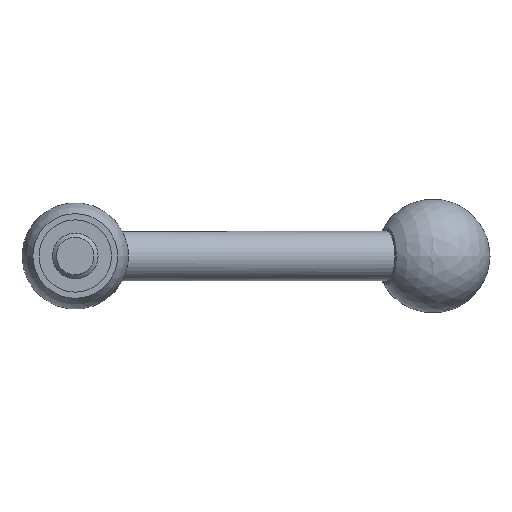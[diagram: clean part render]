
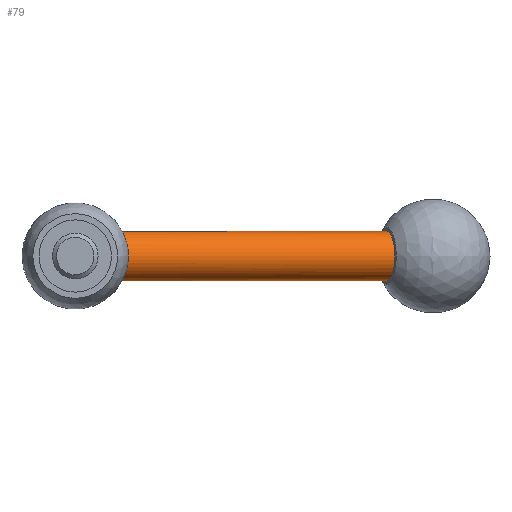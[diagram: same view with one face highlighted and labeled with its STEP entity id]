
A CAD part, front view. The second image highlights one B-rep face of the part: STEP entity #79.
In plain terms, the highlighted cylindrical face has radius 6.5 mm (diameter 13 mm), a full revolution.
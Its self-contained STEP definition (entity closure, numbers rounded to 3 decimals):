
#79 = ADVANCED_FACE( '', ( #100, #101 ), #102, .T. );
#100 = FACE_OUTER_BOUND( '', #137, .T. );
#101 = FACE_OUTER_BOUND( '', #138, .T. );
#102 = CYLINDRICAL_SURFACE( '', #139, 6.5 );
#137 = EDGE_LOOP( '', ( #184 ) );
#138 = EDGE_LOOP( '', ( #185, #186 ) );
#139 = AXIS2_PLACEMENT_3D( '', #187, #188, #189 );
#184 = ORIENTED_EDGE( '', *, *, #235, .F. );
#185 = ORIENTED_EDGE( '', *, *, #232, .F. );
#186 = ORIENTED_EDGE( '', *, *, #234, .T. );
#187 = CARTESIAN_POINT( '', ( 108.095, 60.63, 0. ) );
#188 = DIRECTION( '', ( -0.94, -0.342, 0. ) );
#189 = DIRECTION( '', ( -0.342, 0.94, 0. ) );
#232 = EDGE_CURVE( '', #248, #247, #250, .T. );
#234 = EDGE_CURVE( '', #248, #247, #253, .T. );
#235 = EDGE_CURVE( '', #254, #254, #255, .T. );
#247 = VERTEX_POINT( '', #272 );
#248 = VERTEX_POINT( '', #273 );
#250 = B_SPLINE_CURVE_WITH_KNOTS( '', 3, ( #275, #276, #277, #278, #279, #280, #281, #282, #283, #284, #285, #286, #287, #288, #289, #290, #291, #292, #293, #294, #295, #296, #297, #298, #299, #300, #301, #302, #303, #304, #305, #306, #307, #308, #309, #310, #311, #312, #313, #314, #315, #316, #317, #318, #319, #320, #321, #322, #323, #324, #325, #326, #327, #328, #329, #330, #331, #332, #333, #334, #335, #336, #337, #338, #339, #340, #341, #342, #343, #344, #345, #346 ), .UNSPECIFIED., .F., .F., ( 4, 2, 2, 2, 2, 2, 2, 2, 2, 2, 2, 2, 2, 2, 2, 2, 2, 2, 2, 2, 2, 2, 2, 2, 2, 2, 2, 2, 2, 2, 2, 2, 2, 2, 2, 4 ), ( 0., 0.001, 0.002, 0.003, 0.005, 0.006, 0.007, 0.008, 0.009, 0.01, 0.011, 0.012, 0.013, 0.014, 0.015, 0.015, 0.016, 0.017, 0.017, 0.018, 0.019, 0.02, 0.021, 0.023, 0.024, 0.025, 0.026, 0.027, 0.028, 0.029, 0.03, 0.032, 0.033, 0.034, 0.035, 0.036 ), .UNSPECIFIED. );
#253 = B_SPLINE_CURVE_WITH_KNOTS( '', 3, ( #349, #350, #351, #352, #353, #354, #355, #356, #357, #358, #359, #360, #361, #362 ), .UNSPECIFIED., .F., .F., ( 4, 2, 2, 2, 2, 2, 4 ), ( 0., 0.001, 0.002, 0.002, 0.003, 0.004, 0.005 ), .UNSPECIFIED. );
#254 = VERTEX_POINT( '', #363 );
#255 = CIRCLE( '', #364, 6.5 );
#272 = CARTESIAN_POINT( '', ( 7.623, 30.5, 2.375 ) );
#273 = CARTESIAN_POINT( '', ( 7.623, 30.5, -2.375 ) );
#275 = CARTESIAN_POINT( '', ( 7.623, 30.5, -2.375 ) );
#276 = CARTESIAN_POINT( '', ( 7.696, 30.378, -2.73 ) );
#277 = CARTESIAN_POINT( '', ( 7.784, 30.232, -3.066 ) );
#278 = CARTESIAN_POINT( '', ( 7.987, 29.891, -3.705 ) );
#279 = CARTESIAN_POINT( '', ( 8.104, 29.696, -4.009 ) );
#280 = CARTESIAN_POINT( '', ( 8.363, 29.259, -4.576 ) );
#281 = CARTESIAN_POINT( '', ( 8.504, 29.023, -4.834 ) );
#282 = CARTESIAN_POINT( '', ( 8.805, 28.514, -5.301 ) );
#283 = CARTESIAN_POINT( '', ( 8.966, 28.241, -5.51 ) );
#284 = CARTESIAN_POINT( '', ( 9.305, 27.665, -5.873 ) );
#285 = CARTESIAN_POINT( '', ( 9.479, 27.367, -6.023 ) );
#286 = CARTESIAN_POINT( '', ( 9.839, 26.751, -6.265 ) );
#287 = CARTESIAN_POINT( '', ( 10.025, 26.431, -6.357 ) );
#288 = CARTESIAN_POINT( '', ( 10.402, 25.782, -6.477 ) );
#289 = CARTESIAN_POINT( '', ( 10.59, 25.457, -6.504 ) );
#290 = CARTESIAN_POINT( '', ( 10.966, 24.805, -6.495 ) );
#291 = CARTESIAN_POINT( '', ( 11.155, 24.476, -6.459 ) );
#292 = CARTESIAN_POINT( '', ( 11.527, 23.828, -6.323 ) );
#293 = CARTESIAN_POINT( '', ( 11.707, 23.513, -6.223 ) );
#294 = CARTESIAN_POINT( '', ( 12.057, 22.899, -5.965 ) );
#295 = CARTESIAN_POINT( '', ( 12.228, 22.598, -5.804 ) );
#296 = CARTESIAN_POINT( '', ( 12.552, 22.025, -5.426 ) );
#297 = CARTESIAN_POINT( '', ( 12.704, 21.756, -5.21 ) );
#298 = CARTESIAN_POINT( '', ( 12.917, 21.378, -4.85 ) );
#299 = CARTESIAN_POINT( '', ( 12.986, 21.257, -4.723 ) );
#300 = CARTESIAN_POINT( '', ( 13.118, 21.022, -4.457 ) );
#301 = CARTESIAN_POINT( '', ( 13.182, 20.909, -4.316 ) );
#302 = CARTESIAN_POINT( '', ( 13.362, 20.588, -3.882 ) );
#303 = CARTESIAN_POINT( '', ( 13.469, 20.398, -3.575 ) );
#304 = CARTESIAN_POINT( '', ( 13.608, 20.149, -3.087 ) );
#305 = CARTESIAN_POINT( '', ( 13.651, 20.073, -2.92 ) );
#306 = CARTESIAN_POINT( '', ( 13.73, 19.931, -2.578 ) );
#307 = CARTESIAN_POINT( '', ( 13.767, 19.866, -2.401 ) );
#308 = CARTESIAN_POINT( '', ( 13.863, 19.695, -1.867 ) );
#309 = CARTESIAN_POINT( '', ( 13.911, 19.609, -1.504 ) );
#310 = CARTESIAN_POINT( '', ( 13.959, 19.522, -0.948 ) );
#311 = CARTESIAN_POINT( '', ( 13.972, 19.5, -0.761 ) );
#312 = CARTESIAN_POINT( '', ( 13.988, 19.47, -0.383 ) );
#313 = CARTESIAN_POINT( '', ( 13.992, 19.463, -0.192 ) );
#314 = CARTESIAN_POINT( '', ( 13.992, 19.462, 0.376 ) );
#315 = CARTESIAN_POINT( '', ( 13.976, 19.491, 0.751 ) );
#316 = CARTESIAN_POINT( '', ( 13.912, 19.606, 1.494 ) );
#317 = CARTESIAN_POINT( '', ( 13.863, 19.694, 1.865 ) );
#318 = CARTESIAN_POINT( '', ( 13.736, 19.922, 2.574 ) );
#319 = CARTESIAN_POINT( '', ( 13.657, 20.062, 2.915 ) );
#320 = CARTESIAN_POINT( '', ( 13.471, 20.393, 3.567 ) );
#321 = CARTESIAN_POINT( '', ( 13.363, 20.587, 3.881 ) );
#322 = CARTESIAN_POINT( '', ( 13.124, 21.012, 4.457 ) );
#323 = CARTESIAN_POINT( '', ( 12.993, 21.245, 4.722 ) );
#324 = CARTESIAN_POINT( '', ( 12.707, 21.751, 5.206 ) );
#325 = CARTESIAN_POINT( '', ( 12.552, 22.025, 5.425 ) );
#326 = CARTESIAN_POINT( '', ( 12.23, 22.594, 5.802 ) );
#327 = CARTESIAN_POINT( '', ( 12.061, 22.89, 5.961 ) );
#328 = CARTESIAN_POINT( '', ( 11.71, 23.507, 6.222 ) );
#329 = CARTESIAN_POINT( '', ( 11.526, 23.829, 6.323 ) );
#330 = CARTESIAN_POINT( '', ( 11.157, 24.472, 6.458 ) );
#331 = CARTESIAN_POINT( '', ( 10.971, 24.797, 6.495 ) );
#332 = CARTESIAN_POINT( '', ( 10.593, 25.453, 6.504 ) );
#333 = CARTESIAN_POINT( '', ( 10.401, 25.784, 6.476 ) );
#334 = CARTESIAN_POINT( '', ( 10.028, 26.427, 6.358 ) );
#335 = CARTESIAN_POINT( '', ( 9.844, 26.743, 6.268 ) );
#336 = CARTESIAN_POINT( '', ( 9.482, 27.362, 6.026 ) );
#337 = CARTESIAN_POINT( '', ( 9.304, 27.665, 5.872 ) );
#338 = CARTESIAN_POINT( '', ( 8.969, 28.236, 5.513 ) );
#339 = CARTESIAN_POINT( '', ( 8.809, 28.507, 5.307 ) );
#340 = CARTESIAN_POINT( '', ( 8.506, 29.019, 4.838 ) );
#341 = CARTESIAN_POINT( '', ( 8.363, 29.259, 4.576 ) );
#342 = CARTESIAN_POINT( '', ( 8.106, 29.691, 4.015 ) );
#343 = CARTESIAN_POINT( '', ( 7.991, 29.886, 3.715 ) );
#344 = CARTESIAN_POINT( '', ( 7.785, 30.229, 3.072 ) );
#345 = CARTESIAN_POINT( '', ( 7.696, 30.378, 2.73 ) );
#346 = CARTESIAN_POINT( '', ( 7.623, 30.5, 2.375 ) );
#349 = CARTESIAN_POINT( '', ( 7.623, 30.5, -2.375 ) );
#350 = CARTESIAN_POINT( '', ( 7.735, 30.691, -2.017 ) );
#351 = CARTESIAN_POINT( '', ( 7.825, 30.843, -1.639 ) );
#352 = CARTESIAN_POINT( '', ( 7.919, 31.001, -1.038 ) );
#353 = CARTESIAN_POINT( '', ( 7.944, 31.042, -0.831 ) );
#354 = CARTESIAN_POINT( '', ( 7.976, 31.096, -0.419 ) );
#355 = CARTESIAN_POINT( '', ( 7.984, 31.11, -0.212 ) );
#356 = CARTESIAN_POINT( '', ( 7.984, 31.11, 0.204 ) );
#357 = CARTESIAN_POINT( '', ( 7.976, 31.097, 0.414 ) );
#358 = CARTESIAN_POINT( '', ( 7.944, 31.042, 0.83 ) );
#359 = CARTESIAN_POINT( '', ( 7.92, 31.002, 1.033 ) );
#360 = CARTESIAN_POINT( '', ( 7.826, 30.845, 1.632 ) );
#361 = CARTESIAN_POINT( '', ( 7.735, 30.691, 2.016 ) );
#362 = CARTESIAN_POINT( '', ( 7.623, 30.5, 2.375 ) );
#363 = CARTESIAN_POINT( '', ( 79.561, 57.162, 0. ) );
#364 = AXIS2_PLACEMENT_3D( '', #389, #390, #391 );
#389 = CARTESIAN_POINT( '', ( 81.784, 51.054, 0. ) );
#390 = DIRECTION( '', ( 0.94, 0.342, 0. ) );
#391 = DIRECTION( '', ( -0.342, 0.94, 0. ) );
